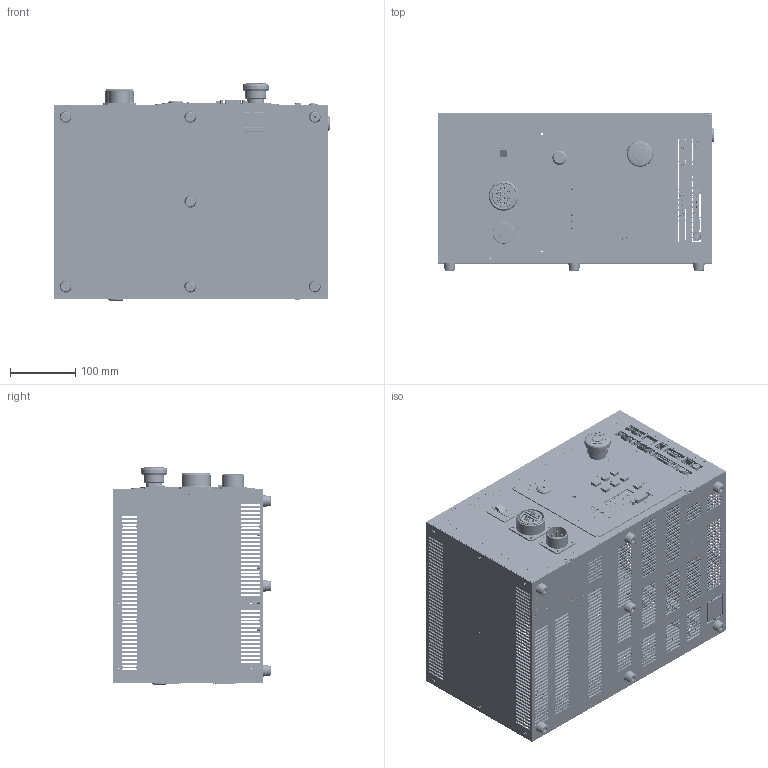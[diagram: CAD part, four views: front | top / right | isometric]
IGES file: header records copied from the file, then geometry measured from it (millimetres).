
Start section: ------------------------------------------------------------------------
Global section: file name: C:\ICADSX\mmf\図面フォルダ\Lite-TS3100E.igs; native system: spGate; preprocessor: ver15.6.2; author: Unknown; organization: Unknown; date: 200212.140839; units: millimetre
Bounding box: 423.25 x 241 x 334.85 mm (x, y, z)
Surface area: 1526482.8 mm2 (no closed solid volume)
Topology: 0 solids, 0 shells, 17716 faces, 97560 edges, 97526 vertices
Faces by surface type: bspline 17716
